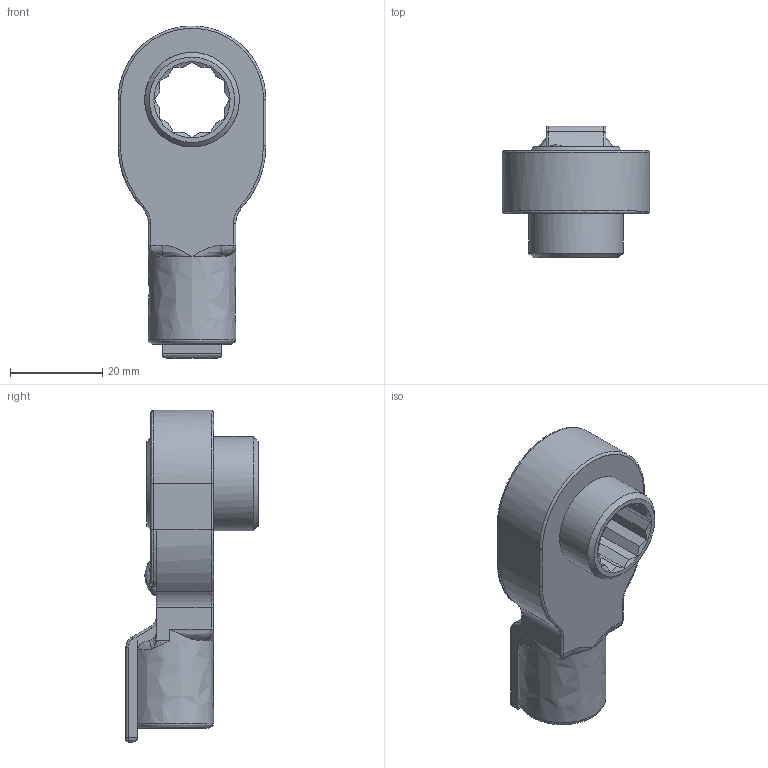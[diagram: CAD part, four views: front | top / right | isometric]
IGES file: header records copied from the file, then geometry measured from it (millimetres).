
Global section: file name: RQH12DX14; native system: Autodesk Inventor 2017; preprocessor: unknown; author: q603; date: 20170209.111305; units: millimetre
Bounding box: 32 x 28.65 x 71.99 mm (x, y, z)
Volume: 20402.8 mm3; surface area: 7980.4 mm2
Topology: 1 solids, 1 shells, 185 faces, 489 edges, 303 vertices
Faces by surface type: bspline 185
